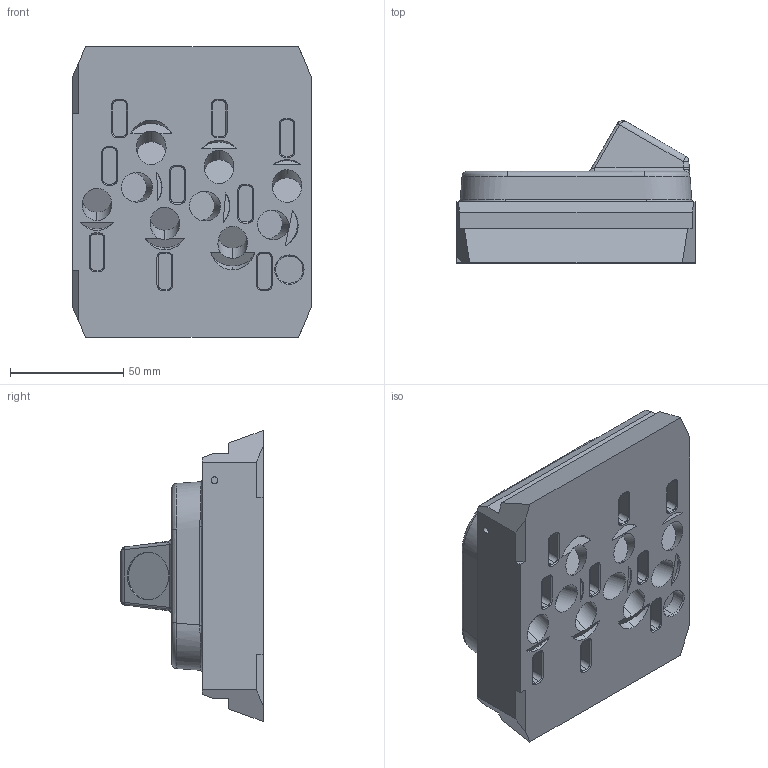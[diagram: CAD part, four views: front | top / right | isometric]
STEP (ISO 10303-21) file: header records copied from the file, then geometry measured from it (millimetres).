
FILE_DESCRIPTION (( 'STEP AP214' ), '1' );
FILE_NAME ('賸.01-04.000-03.STEP', '2025-01-16T10:47:31', ( '' ), ( '' ), 'SwSTEP 2.0', 'SolidWorks 2020', '' );
FILE_SCHEMA (( 'AUTOMOTIVE_DESIGN' ));
Length unit declared in the file: millimetre
Products named in the file (1): 賸.01-04.000-03
Bounding box: 106 x 62.9 x 128.6 mm (x, y, z)
Volume: 441275.6 mm3; surface area: 64753.7 mm2
Topology: 2 solids, 2 shells, 293 faces, 690 edges, 428 vertices
Faces by surface type: plane 131, cylinder 92, cone 38, bspline 32
Entity records: 11015 total; most frequent: CARTESIAN_POINT 4471, ORIENTED_EDGE 1376, DIRECTION 1314, EDGE_CURVE 688, AXIS2_PLACEMENT_3D 468, VERTEX_POINT 428, LINE 378, VECTOR 378
